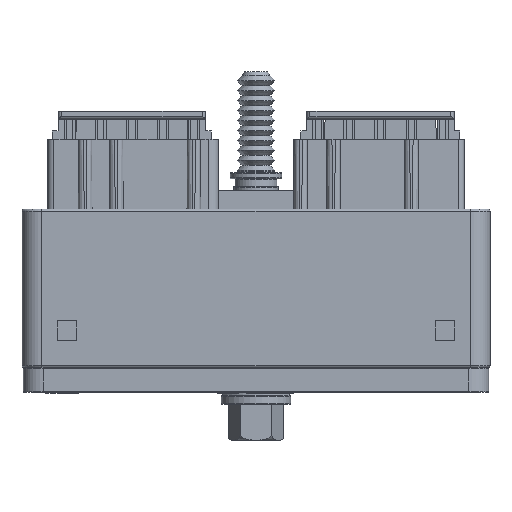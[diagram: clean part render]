
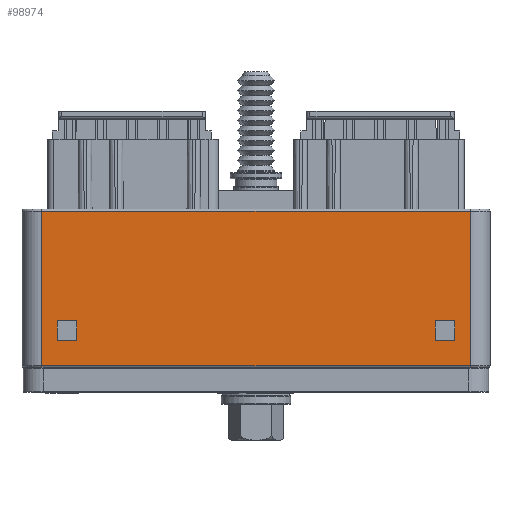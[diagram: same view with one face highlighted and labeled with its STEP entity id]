
A CAD part, front view. The second image highlights one B-rep face of the part: STEP entity #98974.
In plain terms, the highlighted planar face has unit normal (0, -1, 0).
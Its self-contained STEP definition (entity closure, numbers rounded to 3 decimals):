
#1846=DIRECTION('',(1.,0.,0.));
#1847=VECTOR('',#1846,54.61);
#1848=CARTESIAN_POINT('',(-27.305,-14.161,0.254));
#1849=LINE('',#1848,#1847);
#2030=DIRECTION('',(0.,0.,1.));
#2031=VECTOR('',#2030,19.682);
#2032=CARTESIAN_POINT('',(27.305,-14.161,0.254));
#2033=LINE('',#2032,#2031);
#2117=DIRECTION('',(-1.,0.,0.));
#2118=VECTOR('',#2117,54.61);
#2119=CARTESIAN_POINT('',(27.305,-14.161,19.936));
#2120=LINE('',#2119,#2118);
#2159=DIRECTION('',(0.,0.,-1.));
#2160=VECTOR('',#2159,19.682);
#2161=CARTESIAN_POINT('',(-27.305,-14.161,19.936));
#2162=LINE('',#2161,#2160);
#2190=DIRECTION('',(0.,0.,1.));
#2191=VECTOR('',#2190,2.54);
#2192=CARTESIAN_POINT('',(-25.375,-14.161,3.429));
#2193=LINE('',#2192,#2191);
#2194=DIRECTION('',(1.,0.,0.));
#2195=VECTOR('',#2194,2.54);
#2196=CARTESIAN_POINT('',(-25.375,-14.161,5.969));
#2197=LINE('',#2196,#2195);
#2202=DIRECTION('',(0.,0.,-1.));
#2203=VECTOR('',#2202,2.54);
#2204=CARTESIAN_POINT('',(-22.835,-14.161,5.969));
#2205=LINE('',#2204,#2203);
#2210=DIRECTION('',(-1.,0.,0.));
#2211=VECTOR('',#2210,2.54);
#2212=CARTESIAN_POINT('',(-22.835,-14.161,3.429));
#2213=LINE('',#2212,#2211);
#2238=DIRECTION('',(0.,0.,1.));
#2239=VECTOR('',#2238,2.54);
#2240=CARTESIAN_POINT('',(25.375,-14.161,3.429));
#2241=LINE('',#2240,#2239);
#2242=DIRECTION('',(1.,0.,0.));
#2243=VECTOR('',#2242,2.54);
#2244=CARTESIAN_POINT('',(22.835,-14.161,3.429));
#2245=LINE('',#2244,#2243);
#2250=DIRECTION('',(0.,0.,-1.));
#2251=VECTOR('',#2250,2.54);
#2252=CARTESIAN_POINT('',(22.835,-14.161,5.969));
#2253=LINE('',#2252,#2251);
#2258=DIRECTION('',(-1.,0.,0.));
#2259=VECTOR('',#2258,2.54);
#2260=CARTESIAN_POINT('',(25.375,-14.161,5.969));
#2261=LINE('',#2260,#2259);
#85466=CARTESIAN_POINT('',(-27.305,-14.161,19.936));
#85467=VERTEX_POINT('',#85466);
#85468=CARTESIAN_POINT('',(27.305,-14.161,19.936));
#85469=VERTEX_POINT('',#85468);
#85504=CARTESIAN_POINT('',(27.305,-14.161,0.254));
#85505=VERTEX_POINT('',#85504);
#85506=CARTESIAN_POINT('',(-27.305,-14.161,0.254));
#85507=VERTEX_POINT('',#85506);
#85510=CARTESIAN_POINT('',(-25.375,-14.161,3.429));
#85511=CARTESIAN_POINT('',(-25.375,-14.161,5.969));
#85512=VERTEX_POINT('',#85510);
#85513=VERTEX_POINT('',#85511);
#85514=CARTESIAN_POINT('',(-22.835,-14.161,3.429));
#85515=VERTEX_POINT('',#85514);
#85516=CARTESIAN_POINT('',(-22.835,-14.161,5.969));
#85517=VERTEX_POINT('',#85516);
#85518=CARTESIAN_POINT('',(25.375,-14.161,3.429));
#85519=CARTESIAN_POINT('',(25.375,-14.161,5.969));
#85520=VERTEX_POINT('',#85518);
#85521=VERTEX_POINT('',#85519);
#85522=CARTESIAN_POINT('',(22.835,-14.161,5.969));
#85523=VERTEX_POINT('',#85522);
#85524=CARTESIAN_POINT('',(22.835,-14.161,3.429));
#85525=VERTEX_POINT('',#85524);
#98942=CARTESIAN_POINT('',(0.,-14.161,10.095));
#98943=DIRECTION('',(0.,1.,0.));
#98944=DIRECTION('',(1.,0.,0.));
#98945=AXIS2_PLACEMENT_3D('',#98942,#98943,#98944);
#98946=PLANE('',#98945);
#98948=ORIENTED_EDGE('',*,*,#98947,.F.);
#98949=ORIENTED_EDGE('',*,*,#98870,.F.);
#98950=ORIENTED_EDGE('',*,*,#98652,.F.);
#98951=ORIENTED_EDGE('',*,*,#98211,.F.);
#98952=EDGE_LOOP('',(#98948,#98949,#98950,#98951));
#98953=FACE_OUTER_BOUND('',#98952,.F.);
#98955=ORIENTED_EDGE('',*,*,#98954,.F.);
#98957=ORIENTED_EDGE('',*,*,#98956,.F.);
#98959=ORIENTED_EDGE('',*,*,#98958,.F.);
#98961=ORIENTED_EDGE('',*,*,#98960,.F.);
#98962=EDGE_LOOP('',(#98955,#98957,#98959,#98961));
#98963=FACE_BOUND('',#98962,.F.);
#98965=ORIENTED_EDGE('',*,*,#98964,.T.);
#98967=ORIENTED_EDGE('',*,*,#98966,.T.);
#98969=ORIENTED_EDGE('',*,*,#98968,.T.);
#98971=ORIENTED_EDGE('',*,*,#98970,.T.);
#98972=EDGE_LOOP('',(#98965,#98967,#98969,#98971));
#98973=FACE_BOUND('',#98972,.F.);
#98974=ADVANCED_FACE('',(#98953,#98963,#98973),#98946,.F.);
#98211=EDGE_CURVE('',#85507,#85505,#1849,.T.);
#98652=EDGE_CURVE('',#85505,#85469,#2033,.T.);
#98870=EDGE_CURVE('',#85469,#85467,#2120,.T.);
#98947=EDGE_CURVE('',#85467,#85507,#2162,.T.);
#98954=EDGE_CURVE('',#85512,#85513,#2193,.T.);
#98956=EDGE_CURVE('',#85515,#85512,#2213,.T.);
#98958=EDGE_CURVE('',#85517,#85515,#2205,.T.);
#98960=EDGE_CURVE('',#85513,#85517,#2197,.T.);
#98964=EDGE_CURVE('',#85520,#85521,#2241,.T.);
#98966=EDGE_CURVE('',#85521,#85523,#2261,.T.);
#98968=EDGE_CURVE('',#85523,#85525,#2253,.T.);
#98970=EDGE_CURVE('',#85525,#85520,#2245,.T.);
